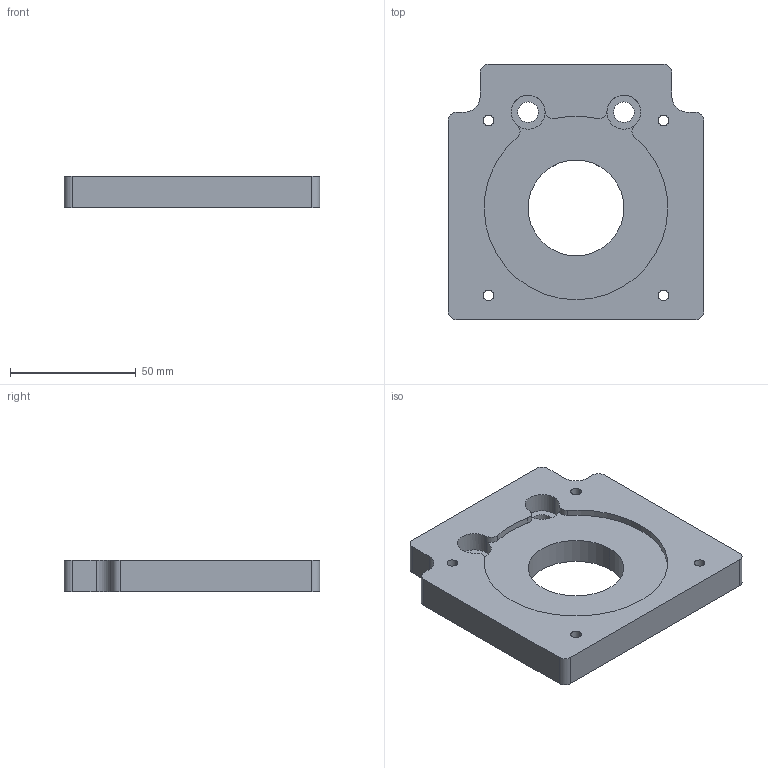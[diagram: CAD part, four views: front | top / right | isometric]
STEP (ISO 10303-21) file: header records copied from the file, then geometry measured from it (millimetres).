
FILE_DESCRIPTION (( 'STEP AP214' ), '1' );
FILE_NAME ('NEMA 34 Motor Mount (904 009).STEP', '2020-11-19T13:35:44', ( '' ), ( '' ), 'SwSTEP 2.0', 'SolidWorks 2020', '' );
FILE_SCHEMA (( 'AUTOMOTIVE_DESIGN' ));
Length unit declared in the file: inch
Products named in the file (1): NEMA 34 Motor Mount (904 009)
Bounding box: 101.6 x 101.6 x 12.7 mm (x, y, z)
Volume: 99250.1 mm3; surface area: 25351.3 mm2
Topology: 1 solids, 1 shells, 47 faces, 132 edges, 88 vertices
Faces by surface type: cylinder 34, plane 13
Entity records: 1730 total; most frequent: DIRECTION 300, CARTESIAN_POINT 268, ORIENTED_EDGE 264, EDGE_CURVE 132, AXIS2_PLACEMENT_3D 120, VERTEX_POINT 88, CIRCLE 72, EDGE_LOOP 62
